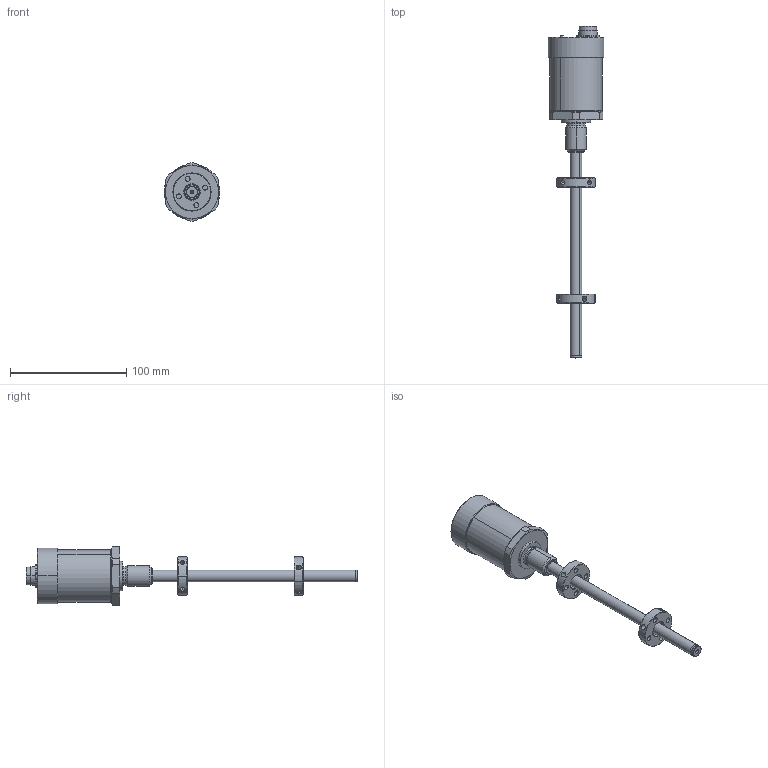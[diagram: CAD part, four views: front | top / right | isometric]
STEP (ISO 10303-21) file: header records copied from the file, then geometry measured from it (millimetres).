
FILE_DESCRIPTION (( 'STEP AP203' ), '1' );
FILE_NAME ('IK4-0100.STEP', '2012-10-26T09:03:13', ( 'User' ), ( '' ), 'SwSTEP 2.0', 'SolidWorks 2012', '' );
FILE_SCHEMA (( 'CONFIG_CONTROL_DESIGN' ));
Length unit declared in the file: millimetre
Products named in the file (12): NIP420x_R1; PUN040x; TUB4001x; CUS074x_Revisione1; PTUB4001x_R1(08-08-12); TES551R1x_R2 (08-08-12); 51021x; CON033x; PTES901x_R2 (08-08-12); TES402x; CUR022x; IK4-0100
Assembly tree (12 placements, depth 3):
  IK4-0100
    PTUB4001x_R1(08-08-12)
      NIP420x_R1
      PUN040x
      TUB4001x
      CUS074x_Revisione1
    PTES901x_R2 (08-08-12)
      TES551R1x_R2 (08-08-12)
      51021x
      CON033x
    TES402x
    CUR022x  x2
Bounding box: 48 x 285.7 x 50 mm (x, y, z)
Volume: 160509.1 mm3; surface area: 45673.7 mm2
Topology: 10 solids, 10 shells, 403 faces, 930 edges, 584 vertices
Faces by surface type: cylinder 180, plane 129, cone 74, bspline 12, torus 6, sphere 2
Entity records: 11902 total; most frequent: CARTESIAN_POINT 2178, DIRECTION 1954, ORIENTED_EDGE 1632, EDGE_CURVE 816, AXIS2_PLACEMENT_3D 800, VERTEX_POINT 520, CIRCLE 438, EDGE_LOOP 416
